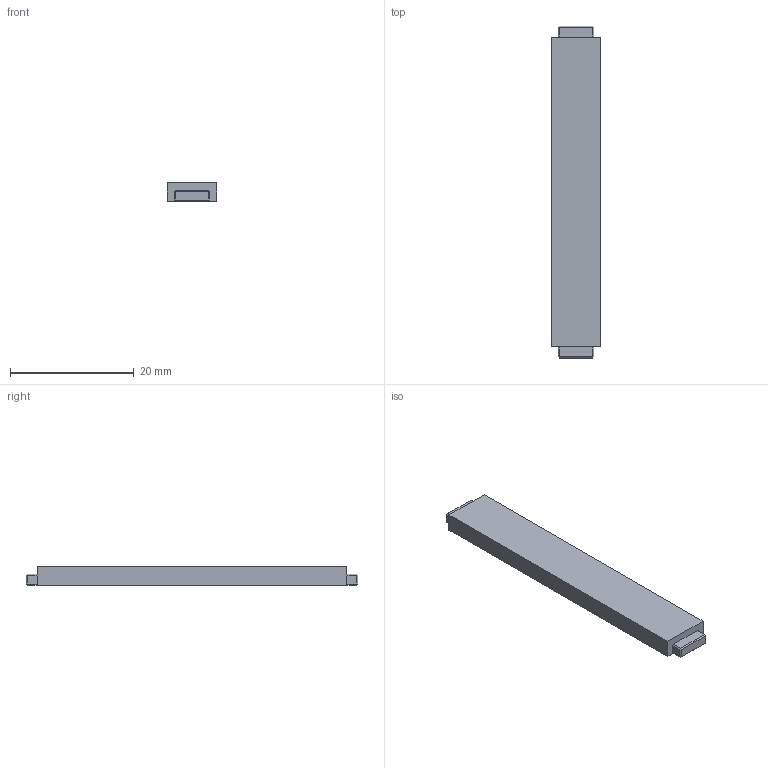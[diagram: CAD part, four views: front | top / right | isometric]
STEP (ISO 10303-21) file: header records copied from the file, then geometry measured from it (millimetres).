
FILE_DESCRIPTION(/* description */ ('STEP AP242','CAx-IF Rec.Pracs.---Representation and Presentation of Product Manufacturing Information (PMI)---4.0---2014-10-13','CAx-IF Rec.Pracs.---3D Tessellated Geometry---0.4---2014-09-14','2;1'),/* implementation_level */ '2;1');
FILE_NAME(/* name */ '65c2f4e4b7d65a7152e5d34a',/* time_stamp */ '2024-02-07T03:11:32Z',/* author */ (''),/* organization */ (''),/* preprocessor_version */ 'ST-DEVELOPER v19.4',/* originating_system */ ' ',/* authorisation */ ' ');
FILE_SCHEMA (('AP242_MANAGED_MODEL_BASED_3D_ENGINEERING_MIM_LF { 1 0 10303 442 1 1 4 }'));
Length unit declared in the file: metre
Products named in the file (1): Slat
Bounding box: 8 x 53.6 x 3 mm (x, y, z)
Volume: 1236.7 mm3; surface area: 1197.5 mm2
Topology: 1 solids, 1 shells, 38 faces, 84 edges, 48 vertices
Faces by surface type: plane 38
Entity records: 1018 total; most frequent: CARTESIAN_POINT 171, ORIENTED_EDGE 168, DIRECTION 162, EDGE_CURVE 84, LINE 84, VECTOR 84, VERTEX_POINT 48, AXIS2_PLACEMENT_3D 39
